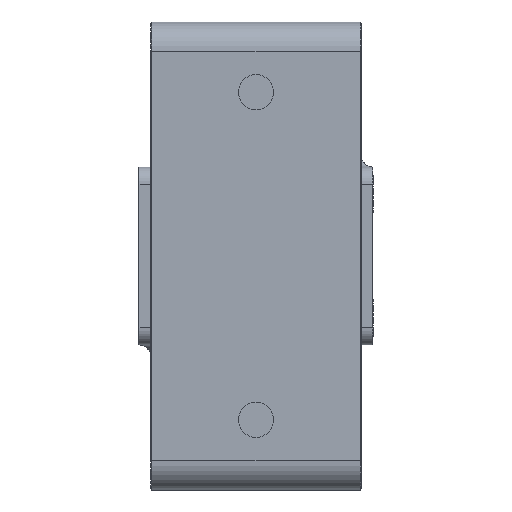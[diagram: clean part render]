
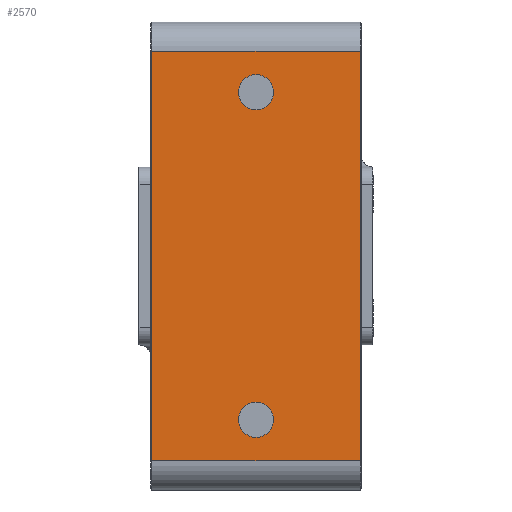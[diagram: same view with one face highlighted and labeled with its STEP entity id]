
A CAD part, left-side view. The second image highlights one B-rep face of the part: STEP entity #2570.
In plain terms, the highlighted planar face has unit normal (-1, 0, 0).
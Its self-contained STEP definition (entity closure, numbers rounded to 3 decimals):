
#62 = LINE ( 'NONE', #27319, #4772 ) ;
#1399 = CARTESIAN_POINT ( 'NONE',  ( -20., 0., 14. ) ) ;
#1529 = EDGE_LOOP ( 'NONE', ( #9357, #25580, #27341, #6681 ) ) ;
#1949 = CARTESIAN_POINT ( 'NONE',  ( -20., 0., 12.5 ) ) ;
#2095 = CARTESIAN_POINT ( 'NONE',  ( -20., 10., 0. ) ) ;
#2526 = FACE_OUTER_BOUND ( 'NONE', #1529, .T. ) ;
#2570 = ADVANCED_FACE ( 'NONE', ( #8946, #17863, #2526 ), #26741, .F. ) ;
#2689 = CIRCLE ( 'NONE', #9211, 1.5 ) ;
#3343 = CIRCLE ( 'NONE', #8923, 1.5 ) ;
#3409 = DIRECTION ( 'NONE',  ( 0., 0., -1. ) ) ;
#4047 = ORIENTED_EDGE ( 'NONE', *, *, #6142, .F. ) ;
#4573 = DIRECTION ( 'NONE',  ( 1., 0., 0. ) ) ;
#4772 = VECTOR ( 'NONE', #3409, 1000. ) ;
#4880 = CARTESIAN_POINT ( 'NONE',  ( -20., -8.9, -17.5 ) ) ;
#5510 = DIRECTION ( 'NONE',  ( -1., 0., 0. ) ) ;
#5961 = VECTOR ( 'NONE', #27983, 1000. ) ;
#6142 = EDGE_CURVE ( 'NONE', #7056, #8682, #3343, .T. ) ;
#6534 = LINE ( 'NONE', #15426, #13196 ) ;
#6598 = ORIENTED_EDGE ( 'NONE', *, *, #16396, .F. ) ;
#6681 = ORIENTED_EDGE ( 'NONE', *, *, #8283, .T. ) ;
#7056 = VERTEX_POINT ( 'NONE', #16660 ) ;
#7739 = VERTEX_POINT ( 'NONE', #1949 ) ;
#7901 = VERTEX_POINT ( 'NONE', #12128 ) ;
#8091 = ORIENTED_EDGE ( 'NONE', *, *, #16159, .F. ) ;
#8283 = EDGE_CURVE ( 'NONE', #7901, #25569, #62, .T. ) ;
#8426 = CARTESIAN_POINT ( 'NONE',  ( -20., 10., -17.5 ) ) ;
#8682 = VERTEX_POINT ( 'NONE', #10991 ) ;
#8923 = AXIS2_PLACEMENT_3D ( 'NONE', #12047, #16580, #18923 ) ;
#8946 = FACE_BOUND ( 'NONE', #27845, .T. ) ;
#9201 = CARTESIAN_POINT ( 'NONE',  ( -20., 0., 15.5 ) ) ;
#9211 = AXIS2_PLACEMENT_3D ( 'NONE', #1399, #28372, #10300 ) ;
#9357 = ORIENTED_EDGE ( 'NONE', *, *, #16483, .T. ) ;
#9466 = DIRECTION ( 'NONE',  ( 0., 0., 1. ) ) ;
#9872 = CIRCLE ( 'NONE', #22932, 1.5 ) ;
#10300 = DIRECTION ( 'NONE',  ( 0., 0., 1. ) ) ;
#10356 = VERTEX_POINT ( 'NONE', #4880 ) ;
#10991 = CARTESIAN_POINT ( 'NONE',  ( -20., 0., -12.5 ) ) ;
#11646 = CARTESIAN_POINT ( 'NONE',  ( -20., 0., 14. ) ) ;
#11925 = DIRECTION ( 'NONE',  ( -1., 0., 0. ) ) ;
#12000 = AXIS2_PLACEMENT_3D ( 'NONE', #25661, #11925, #9466 ) ;
#12047 = CARTESIAN_POINT ( 'NONE',  ( -20., 0., -14. ) ) ;
#12128 = CARTESIAN_POINT ( 'NONE',  ( -20., 8.9, 17.5 ) ) ;
#13196 = VECTOR ( 'NONE', #28695, 1000. ) ;
#13314 = CARTESIAN_POINT ( 'NONE',  ( -20., -8.9, 17.5 ) ) ;
#15426 = CARTESIAN_POINT ( 'NONE',  ( -20., 10., 17.5 ) ) ;
#16159 = EDGE_CURVE ( 'NONE', #7739, #23428, #2689, .T. ) ;
#16396 = EDGE_CURVE ( 'NONE', #8682, #7056, #19487, .T. ) ;
#16483 = EDGE_CURVE ( 'NONE', #25569, #10356, #19539, .T. ) ;
#16580 = DIRECTION ( 'NONE',  ( -1., 0., 0. ) ) ;
#16660 = CARTESIAN_POINT ( 'NONE',  ( -20., 0., -15.5 ) ) ;
#17052 = AXIS2_PLACEMENT_3D ( 'NONE', #2095, #4573, #19918 ) ;
#17745 = LINE ( 'NONE', #18170, #27827 ) ;
#17863 = FACE_BOUND ( 'NONE', #22894, .T. ) ;
#18170 = CARTESIAN_POINT ( 'NONE',  ( -20., -8.9, 17.5 ) ) ;
#18909 = VERTEX_POINT ( 'NONE', #13314 ) ;
#18923 = DIRECTION ( 'NONE',  ( 0., 0., 1. ) ) ;
#19487 = CIRCLE ( 'NONE', #12000, 1.5 ) ;
#19539 = LINE ( 'NONE', #8426, #5961 ) ;
#19918 = DIRECTION ( 'NONE',  ( 0., 0., -1. ) ) ;
#20613 = EDGE_CURVE ( 'NONE', #7901, #18909, #6534, .T. ) ;
#21798 = EDGE_CURVE ( 'NONE', #23428, #7739, #9872, .T. ) ;
#22278 = DIRECTION ( 'NONE',  ( 0., 0., 1. ) ) ;
#22894 = EDGE_LOOP ( 'NONE', ( #24934, #8091 ) ) ;
#22932 = AXIS2_PLACEMENT_3D ( 'NONE', #11646, #5510, #25076 ) ;
#23428 = VERTEX_POINT ( 'NONE', #9201 ) ;
#24934 = ORIENTED_EDGE ( 'NONE', *, *, #21798, .F. ) ;
#25076 = DIRECTION ( 'NONE',  ( 0., 0., 1. ) ) ;
#25569 = VERTEX_POINT ( 'NONE', #25871 ) ;
#25580 = ORIENTED_EDGE ( 'NONE', *, *, #28345, .T. ) ;
#25661 = CARTESIAN_POINT ( 'NONE',  ( -20., 0., -14. ) ) ;
#25871 = CARTESIAN_POINT ( 'NONE',  ( -20., 8.9, -17.5 ) ) ;
#26741 = PLANE ( 'NONE',  #17052 ) ;
#27319 = CARTESIAN_POINT ( 'NONE',  ( -20., 8.9, -17.5 ) ) ;
#27341 = ORIENTED_EDGE ( 'NONE', *, *, #20613, .F. ) ;
#27827 = VECTOR ( 'NONE', #22278, 1000. ) ;
#27845 = EDGE_LOOP ( 'NONE', ( #6598, #4047 ) ) ;
#27983 = DIRECTION ( 'NONE',  ( 0., -1., 0. ) ) ;
#28345 = EDGE_CURVE ( 'NONE', #10356, #18909, #17745, .T. ) ;
#28372 = DIRECTION ( 'NONE',  ( -1., 0., 0. ) ) ;
#28695 = DIRECTION ( 'NONE',  ( 0., -1., 0. ) ) ;
